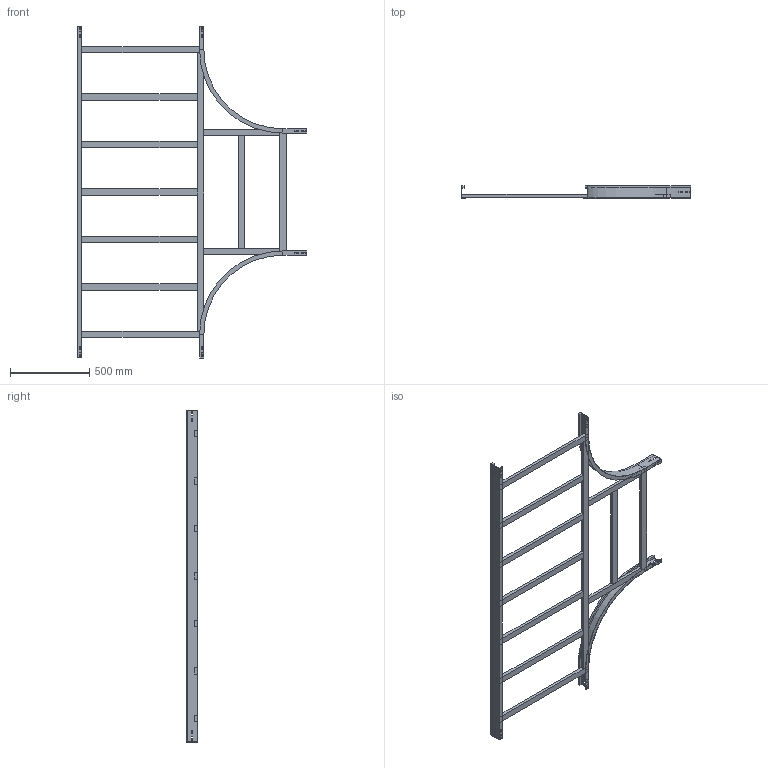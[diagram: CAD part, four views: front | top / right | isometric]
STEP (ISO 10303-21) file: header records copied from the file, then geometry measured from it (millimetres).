
FILE_DESCRIPTION (( 'STEP AP214' ), '1' );
FILE_NAME ('15B5C800.step', '2025-02-21T15:52:51', ( '' ), ( '' ), 'SwSTEP 2.0', 'SolidWorks 2023', '' );
FILE_SCHEMA (( 'AUTOMOTIVE_DESIGN' ));
Length unit declared in the file: millimetre
Products named in the file (8): TRAVERSINO_LONG._R500+800; TRAVERSINO_800; 15B5C800; TRAVERSINO_VERT_R500; TRAVERSINO_INTERMEDIO_R500+800; LONGH.RETT_H75_R500+800; LONGH.INTERNO 90°_H75_R500; TRAVERSINO_COPPIA_800
Assembly tree (15 placements, depth 2):
  15B5C800
    LONGH.INTERNO 90°_H75_R500  x2
    LONGH.RETT_H75_R500+800
    TRAVERSINO_800  x3
    TRAVERSINO_LONG._R500+800
    TRAVERSINO_INTERMEDIO_R500+800  x5
    TRAVERSINO_VERT_R500  x2
    TRAVERSINO_COPPIA_800
Bounding box: 1450 x 75 x 2100 mm (x, y, z)
Volume: 9454375.9 mm3; surface area: 2191642.5 mm2
Topology: 15 solids, 15 shells, 230 faces, 568 edges, 368 vertices
Faces by surface type: plane 222, cylinder 8
Entity records: 4217 total; most frequent: CARTESIAN_POINT 696, ORIENTED_EDGE 664, DIRECTION 636, EDGE_CURVE 332, LINE 324, VECTOR 324, VERTEX_POINT 216, EDGE_LOOP 162
